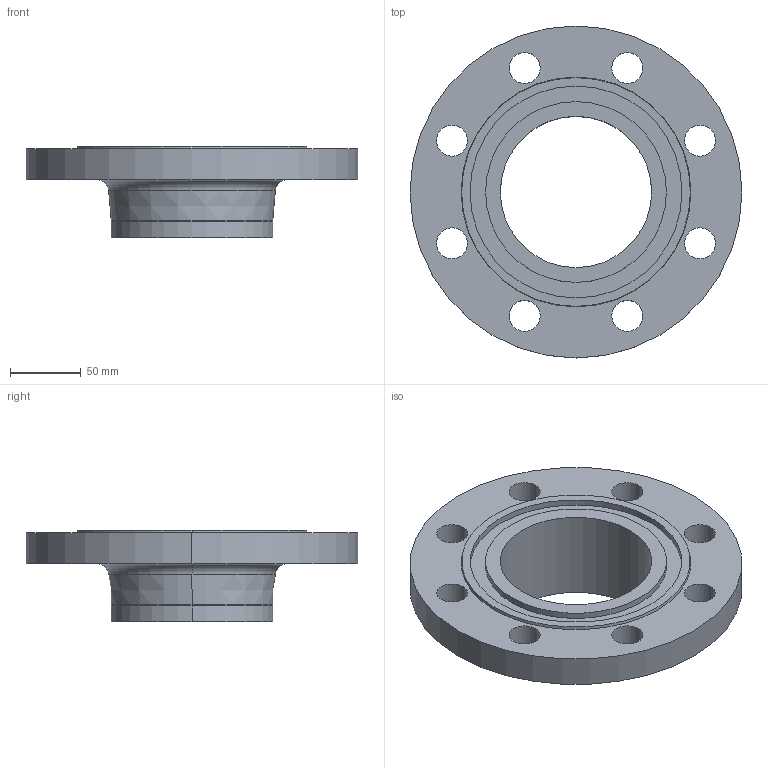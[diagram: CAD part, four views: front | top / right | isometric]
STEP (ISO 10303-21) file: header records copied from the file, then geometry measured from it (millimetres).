
FILE_DESCRIPTION (( 'STEP AP214' ), '1' );
FILE_NAME ('PN40 DN100 Type 11 - Type D Face.STEP', '2019-01-02T00:23:32', ( '' ), ( '' ), 'SwSTEP 2.0', 'SolidWorks 2019', '' );
FILE_SCHEMA (( 'AUTOMOTIVE_DESIGN' ));
Length unit declared in the file: millimetre
Products named in the file (1): PN40 DN100 Type 11 - Type D Face
Bounding box: 235 x 235 x 65 mm (x, y, z)
Volume: 759918.5 mm3; surface area: 130756.8 mm2
Topology: 1 solids, 1 shells, 40 faces, 96 edges, 62 vertices
Faces by surface type: cylinder 26, plane 6, torus 4, cone 4
Entity records: 1268 total; most frequent: DIRECTION 244, CARTESIAN_POINT 199, ORIENTED_EDGE 192, AXIS2_PLACEMENT_3D 107, EDGE_CURVE 96, CIRCLE 66, EDGE_LOOP 62, VERTEX_POINT 62
